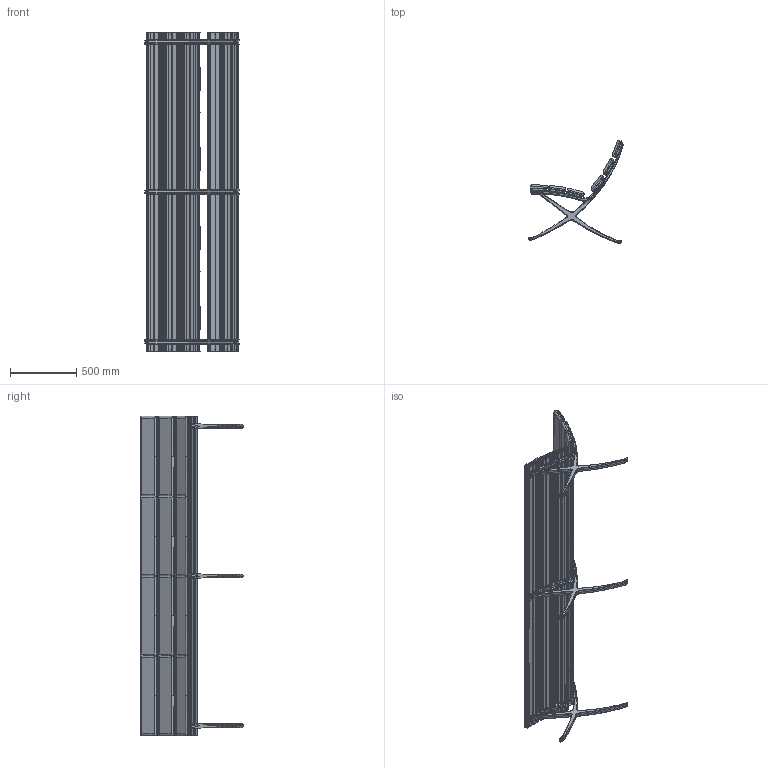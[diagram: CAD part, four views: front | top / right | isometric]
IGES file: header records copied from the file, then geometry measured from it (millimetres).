
Start section: SolidWorks IGES file using analytic representation for surfaces
Global section: file name: W:\OFICINA TÉCNICA 9001\2-MOBILIARIO E INSTALACIÓN\394- BENCH B\PLANOS TÉCNICOS\2D-3D\IGS\MI-394-05-04-F230113-BENCH B 4PLAZAS SIN TAPIZAR.IGS; native system: SolidWorks 2011; preprocessor: SolidWorks 2011; author: otecnica01; date: 140707.135403; units: millimetre
Bounding box: 711.89 x 776.78 x 2413.01 mm (x, y, z)
Volume: 62938364.7 mm3; surface area: 13228923.8 mm2
Topology: 132 solids, 132 shells, 4038 faces, 9835 edges, 6009 vertices
Faces by surface type: revolution 2361, plane 1308, bspline 369
